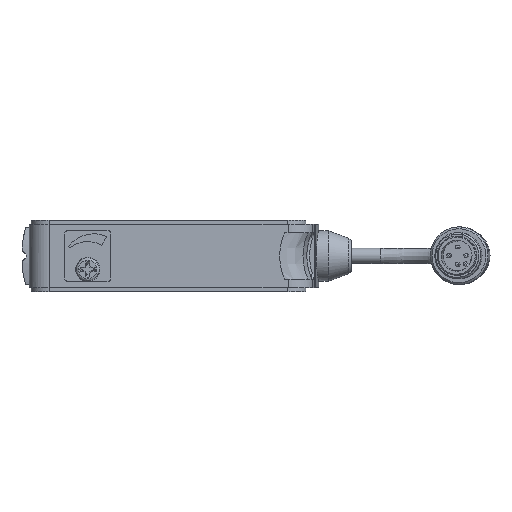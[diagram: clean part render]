
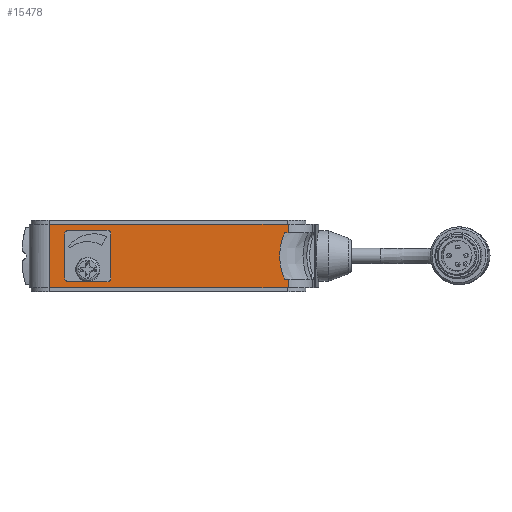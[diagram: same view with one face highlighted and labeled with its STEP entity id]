
A CAD part, left-side view. The second image highlights one B-rep face of the part: STEP entity #15478.
In plain terms, the highlighted free-form (B-spline) face has degree [1, 1] with [2, 2] control points.
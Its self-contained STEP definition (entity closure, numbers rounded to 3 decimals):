
#7028=CARTESIAN_POINT('V226',(76.263,-48.363,
   15.95));
#7029=VERTEX_POINT('V226',#7028);
#7036=CARTESIAN_POINT('V227',(76.263,-58.363,
   15.95));
#7037=VERTEX_POINT('V227',#7036);
#7043=CARTESIAN_POINT('E312',(76.263,-48.363,
   15.95));
#7044=CARTESIAN_POINT('E312',(76.263,-58.363,
   15.95));
#7045=B_SPLINE_CURVE_WITH_KNOTS('E312',1,(#7043,#7044),
   .POLYLINE_FORM.,.F.,.U.,(2,2),(0.0,33.333),
   .UNSPECIFIED.);
#7046=EDGE_CURVE('E312',#7029,#7037,#7045,.T.);
#7067=CARTESIAN_POINT('V228',(76.263,-59.363,
   14.95));
#7068=VERTEX_POINT('V228',#7067);
#7074=CARTESIAN_POINT('E313',(76.263,-58.363,
   15.95));
#7075=CARTESIAN_POINT('E313',(76.263,-59.363,
   15.95));
#7076=CARTESIAN_POINT('E313',(76.263,-59.363,
   14.95));
#7084=(BOUNDED_CURVE()B_SPLINE_CURVE(2,(#7074,#7075,#7076),
   .CIRCULAR_ARC.,.F.,.U.)B_SPLINE_CURVE_WITH_KNOTS((3,3),(0.0,
   6.667),.UNSPECIFIED.)CURVE()
   GEOMETRIC_REPRESENTATION_ITEM()RATIONAL_B_SPLINE_CURVE((1.0,
   0.707,1.0))REPRESENTATION_ITEM('E313'));
#7085=EDGE_CURVE('E313',#7037,#7068,#7084,.T.);
#7097=CARTESIAN_POINT('V229',(76.263,-59.363,
   3.55));
#7098=VERTEX_POINT('V229',#7097);
#7104=CARTESIAN_POINT('E314',(76.263,-59.363,
   14.95));
#7105=CARTESIAN_POINT('E314',(76.263,-59.363,
   3.55));
#7106=B_SPLINE_CURVE_WITH_KNOTS('E314',1,(#7104,#7105),
   .POLYLINE_FORM.,.F.,.U.,(2,2),(0.0,38.),
   .UNSPECIFIED.);
#7107=EDGE_CURVE('E314',#7068,#7098,#7106,.T.);
#7128=CARTESIAN_POINT('V230',(76.263,-58.363,
   2.55));
#7129=VERTEX_POINT('V230',#7128);
#7135=CARTESIAN_POINT('E315',(76.263,-59.363,
   3.55));
#7136=CARTESIAN_POINT('E315',(76.263,-59.363,
   2.55));
#7137=CARTESIAN_POINT('E315',(76.263,-58.363,
   2.55));
#7145=(BOUNDED_CURVE()B_SPLINE_CURVE(2,(#7135,#7136,#7137),
   .CIRCULAR_ARC.,.F.,.U.)B_SPLINE_CURVE_WITH_KNOTS((3,3),(0.0,
   6.667),.UNSPECIFIED.)CURVE()
   GEOMETRIC_REPRESENTATION_ITEM()RATIONAL_B_SPLINE_CURVE((1.0,
   0.707,1.0))REPRESENTATION_ITEM('E315'));
#7146=EDGE_CURVE('E315',#7098,#7129,#7145,.T.);
#7158=CARTESIAN_POINT('V231',(76.263,-48.363,
   2.55));
#7159=VERTEX_POINT('V231',#7158);
#7165=CARTESIAN_POINT('E316',(76.263,-58.363,
   2.55));
#7166=CARTESIAN_POINT('E316',(76.263,-48.363,
   2.55));
#7167=B_SPLINE_CURVE_WITH_KNOTS('E316',1,(#7165,#7166),
   .POLYLINE_FORM.,.F.,.U.,(2,2),(0.0,33.333),
   .UNSPECIFIED.);
#7168=EDGE_CURVE('E316',#7129,#7159,#7167,.T.);
#7189=CARTESIAN_POINT('V232',(76.263,-47.363,
   3.55));
#7190=VERTEX_POINT('V232',#7189);
#7196=CARTESIAN_POINT('E317',(76.263,-48.363,
   2.55));
#7197=CARTESIAN_POINT('E317',(76.263,-47.363,
   2.55));
#7198=CARTESIAN_POINT('E317',(76.263,-47.363,
   3.55));
#7206=(BOUNDED_CURVE()B_SPLINE_CURVE(2,(#7196,#7197,#7198),
   .CIRCULAR_ARC.,.F.,.U.)B_SPLINE_CURVE_WITH_KNOTS((3,3),(0.0,
   6.667),.UNSPECIFIED.)CURVE()
   GEOMETRIC_REPRESENTATION_ITEM()RATIONAL_B_SPLINE_CURVE((1.0,
   0.707,1.0))REPRESENTATION_ITEM('E317'));
#7207=EDGE_CURVE('E317',#7159,#7190,#7206,.T.);
#7219=CARTESIAN_POINT('V225',(76.263,-47.363,
   14.95));
#7220=VERTEX_POINT('V225',#7219);
#7226=CARTESIAN_POINT('E318',(76.263,-47.363,
   3.55));
#7227=CARTESIAN_POINT('E318',(76.263,-47.363,
   14.95));
#7228=B_SPLINE_CURVE_WITH_KNOTS('E318',1,(#7226,#7227),
   .POLYLINE_FORM.,.F.,.U.,(2,2),(0.0,38.),
   .UNSPECIFIED.);
#7229=EDGE_CURVE('E318',#7190,#7220,#7228,.T.);
#7251=CARTESIAN_POINT('E311',(76.263,-47.363,
   14.95));
#7252=CARTESIAN_POINT('E311',(76.263,-47.363,
   15.95));
#7253=CARTESIAN_POINT('E311',(76.263,-48.363,
   15.95));
#7261=(BOUNDED_CURVE()B_SPLINE_CURVE(2,(#7251,#7252,#7253),
   .CIRCULAR_ARC.,.F.,.U.)B_SPLINE_CURVE_WITH_KNOTS((3,3),(0.0,
   6.667),.UNSPECIFIED.)CURVE()
   GEOMETRIC_REPRESENTATION_ITEM()RATIONAL_B_SPLINE_CURVE((1.0,
   0.707,1.0))REPRESENTATION_ITEM('E311'));
#7262=EDGE_CURVE('E311',#7220,#7029,#7261,.T.);
#7468=CARTESIAN_POINT('V222',(76.268,
   -104.476,3.25));
#7469=VERTEX_POINT('V222',#7468);
#7484=CARTESIAN_POINT('V223',(76.268,
   -104.476,15.25));
#7485=VERTEX_POINT('V223',#7484);
#7499=CARTESIAN_POINT('E308',(76.268,
   -104.476,3.25));
#7500=CARTESIAN_POINT('E308',(76.268,
   -101.857,9.25));
#7501=CARTESIAN_POINT('E308',(76.268,
   -104.476,15.25));
#7509=(BOUNDED_CURVE()B_SPLINE_CURVE(2,(#7499,#7500,#7501),
   .CIRCULAR_ARC.,.F.,.U.)B_SPLINE_CURVE_WITH_KNOTS((3,3),(0.0,
   13.093),.UNSPECIFIED.)CURVE()
   GEOMETRIC_REPRESENTATION_ITEM()RATIONAL_B_SPLINE_CURVE((1.0,
   0.917,1.0))REPRESENTATION_ITEM('E308'));
#7510=EDGE_CURVE('E308',#7469,#7485,#7509,.T.);
#7520=CARTESIAN_POINT('V224',(76.263,
   -105.42,15.25));
#7521=VERTEX_POINT('V224',#7520);
#7522=CARTESIAN_POINT('E309',(76.263,
   -104.476,15.25));
#7523=CARTESIAN_POINT('E309',(76.263,
   -105.42,15.25));
#7524=B_SPLINE_CURVE_WITH_KNOTS('E309',1,(#7522,#7523),
   .POLYLINE_FORM.,.F.,.U.,(2,2),(0.175,1.0),
   .UNSPECIFIED.);
#7525=EDGE_CURVE('E309',#7485,#7521,#7524,.T.);
#7684=CARTESIAN_POINT('V221',(76.263,
   -105.42,3.25));
#7685=VERTEX_POINT('V221',#7684);
#7686=CARTESIAN_POINT('E307',(76.263,
   -105.42,3.25));
#7687=CARTESIAN_POINT('E307',(76.263,
   -104.476,3.25));
#7688=B_SPLINE_CURVE_WITH_KNOTS('E307',1,(#7686,#7687),
   .POLYLINE_FORM.,.F.,.U.,(2,2),(0.175,1.0),
   .UNSPECIFIED.);
#7689=EDGE_CURVE('E307',#7685,#7469,#7688,.T.);
#7721=CARTESIAN_POINT('V74',(76.263,-105.42,
   1.05));
#7722=VERTEX_POINT('V74',#7721);
#7744=CARTESIAN_POINT('E306',(76.263,
   -105.42,1.05));
#7745=CARTESIAN_POINT('E306',(76.263,
   -105.42,3.25));
#7746=B_SPLINE_CURVE_WITH_KNOTS('E306',1,(#7744,#7745),
   .POLYLINE_FORM.,.F.,.U.,(2,2),(0.057,
   0.176),.UNSPECIFIED.);
#7747=EDGE_CURVE('E306',#7722,#7685,#7746,.T.);
#15400=CARTESIAN_POINT('V220',(76.263,
   -43.363,17.45));
#15401=VERTEX_POINT('V220',#15400);
#15416=CARTESIAN_POINT('V73',(76.263,-43.363,
   1.05));
#15417=VERTEX_POINT('V73',#15416);
#15431=CARTESIAN_POINT('E305',(76.263,
   -43.363,17.45));
#15432=CARTESIAN_POINT('E305',(76.263,
   -43.363,1.05));
#15433=B_SPLINE_CURVE_WITH_KNOTS('E305',1,(#15431,#15432),
   .POLYLINE_FORM.,.F.,.U.,(2,2),(0.101,
   1.678),.UNSPECIFIED.);
#15434=EDGE_CURVE('E305',#15401,#15417,#15433,.T.);
#15439=CARTESIAN_POINT('F92',(76.263,-43.363,
   0.0));
#15440=CARTESIAN_POINT('F92',(76.263,
   -105.42,0.0));
#15441=CARTESIAN_POINT('F92',(76.263,-43.363,
   18.5));
#15442=CARTESIAN_POINT('F92',(76.263,
   -105.42,18.5));
#15443=B_SPLINE_SURFACE_WITH_KNOTS('F92',1,1,((#15439,#15441),(
   #15440,#15442)),.PLANE_SURF.,.F.,.F.,.U.,(2,2),(2,2),(0.0,
   3.354),(0.0,1.0),.UNSPECIFIED.);
#15444=CARTESIAN_POINT('V219',(76.263,
   -105.42,17.45));
#15445=VERTEX_POINT('V219',#15444);
#15446=CARTESIAN_POINT('E304',(76.263,
   -105.42,17.45));
#15447=CARTESIAN_POINT('E304',(76.263,
   -43.363,17.45));
#15448=QUASI_UNIFORM_CURVE('E304',1,(#15446,#15447),.POLYLINE_FORM.,
   .F.,.U.);
#15449=EDGE_CURVE('E304',#15445,#15401,#15448,.T.);
#15450=ORIENTED_EDGE('E304',*,*,#15449,.T.);
#15451=ORIENTED_EDGE('F120',*,*,#15434,.T.);
#15452=CARTESIAN_POINT('E98',(76.263,-43.363,
   1.05));
#15453=CARTESIAN_POINT('E98',(76.263,
   -105.42,1.05));
#15454=QUASI_UNIFORM_CURVE('E98',1,(#15452,#15453),.POLYLINE_FORM.,
   .F.,.U.);
#15455=EDGE_CURVE('E98',#15417,#7722,#15454,.T.);
#15456=ORIENTED_EDGE('E98',*,*,#15455,.T.);
#15457=ORIENTED_EDGE('F117',*,*,#7747,.T.);
#15458=ORIENTED_EDGE('E307',*,*,#7689,.T.);
#15459=ORIENTED_EDGE('F127',*,*,#7510,.T.);
#15460=ORIENTED_EDGE('E309',*,*,#7525,.T.);
#15461=CARTESIAN_POINT('E310',(76.263,
   -105.42,15.25));
#15462=CARTESIAN_POINT('E310',(76.263,
   -105.42,17.45));
#15463=B_SPLINE_CURVE_WITH_KNOTS('E310',1,(#15461,#15462),
   .POLYLINE_FORM.,.F.,.U.,(2,2),(0.824,
   0.943),.UNSPECIFIED.);
#15464=EDGE_CURVE('E310',#7521,#15445,#15463,.T.);
#15465=ORIENTED_EDGE('E310',*,*,#15464,.T.);
#15466=EDGE_LOOP('F92',(#15450,#15451,#15456,#15457,#15458,#15459,
   #15460,#15465));
#15467=FACE_OUTER_BOUND('F92',#15466,.T.);
#15468=ORIENTED_EDGE('F105',*,*,#7262,.T.);
#15469=ORIENTED_EDGE('F104',*,*,#7046,.T.);
#15470=ORIENTED_EDGE('F103',*,*,#7085,.T.);
#15471=ORIENTED_EDGE('F102',*,*,#7107,.T.);
#15472=ORIENTED_EDGE('F101',*,*,#7146,.T.);
#15473=ORIENTED_EDGE('F100',*,*,#7168,.T.);
#15474=ORIENTED_EDGE('F99',*,*,#7207,.T.);
#15475=ORIENTED_EDGE('F98',*,*,#7229,.T.);
#15476=EDGE_LOOP('F92',(#15468,#15469,#15470,#15471,#15472,#15473,
   #15474,#15475));
#15477=FACE_BOUND('F92',#15476,.T.);
#15478=ADVANCED_FACE('F92',(#15467,#15477),#15443,.T.);
